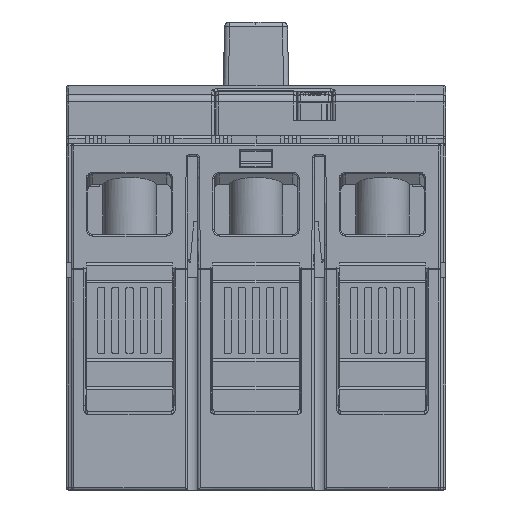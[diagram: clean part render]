
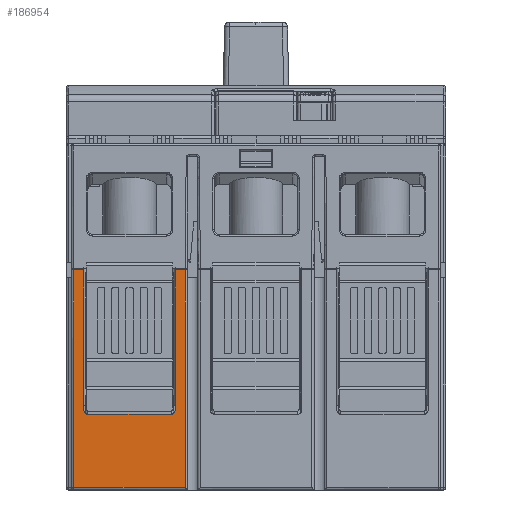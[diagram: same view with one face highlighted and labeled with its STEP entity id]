
A CAD part, front view. The second image highlights one B-rep face of the part: STEP entity #186954.
In plain terms, the highlighted planar face has unit normal (0, -1, 0).
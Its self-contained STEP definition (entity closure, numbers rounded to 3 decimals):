
#36447 = CARTESIAN_POINT ( 'NONE',  ( -33.3, -65., 15.7 ) ) ;
#36449 = DIRECTION ( 'NONE',  ( 0., -1., 0. ) ) ;
#36451 = DIRECTION ( 'NONE',  ( 0., 0., 1. ) ) ;
#36492 = LINE ( 'NONE', #36494, #139506 ) ;
#36494 = CARTESIAN_POINT ( 'NONE',  ( -37.5, -65., 15. ) ) ;
#36496 = DIRECTION ( 'NONE',  ( 1., 0., 0. ) ) ;
#36531 = CARTESIAN_POINT ( 'NONE',  ( -16.7, -65., 15.7 ) ) ;
#36533 = DIRECTION ( 'NONE',  ( 0., -1., 0. ) ) ;
#36534 = DIRECTION ( 'NONE',  ( 0., 0., -1. ) ) ;
#41897 = VECTOR ( 'NONE', #159462, 1000. ) ;
#41918 = VECTOR ( 'NONE', #159484, 1000. ) ;
#49181 = EDGE_CURVE ( 'NONE', #141727, #142605, #137434, .T. ) ;
#49185 = EDGE_CURVE ( 'NONE', #142602, #81810, #137460, .T. ) ;
#49189 = EDGE_CURVE ( 'NONE', #81810, #81813, #137541, .T. ) ;
#49193 = EDGE_CURVE ( 'NONE', #81813, #81788, #137560, .T. ) ;
#49197 = EDGE_CURVE ( 'NONE', #81788, #141723, #137625, .T. ) ;
#49763 = EDGE_CURVE ( 'NONE', #142605, #142623, #139503, .T. ) ;
#49777 = EDGE_CURVE ( 'NONE', #142623, #142614, #36492, .T. ) ;
#49785 = EDGE_CURVE ( 'NONE', #142614, #142602, #139518, .T. ) ;
#81330 = ORIENTED_EDGE ( 'NONE', *, *, #49197, .F. ) ;
#81334 = ORIENTED_EDGE ( 'NONE', *, *, #49193, .F. ) ;
#81337 = ORIENTED_EDGE ( 'NONE', *, *, #49189, .F. ) ;
#81340 = ORIENTED_EDGE ( 'NONE', *, *, #49185, .F. ) ;
#81342 = ORIENTED_EDGE ( 'NONE', *, *, #49785, .F. ) ;
#81345 = ORIENTED_EDGE ( 'NONE', *, *, #49777, .F. ) ;
#81348 = ORIENTED_EDGE ( 'NONE', *, *, #49763, .F. ) ;
#81350 = ORIENTED_EDGE ( 'NONE', *, *, #49181, .F. ) ;
#81354 = ORIENTED_EDGE ( 'NONE', *, *, #89056, .F. ) ;
#81358 = ORIENTED_EDGE ( 'NONE', *, *, #89051, .F. ) ;
#81788 = VERTEX_POINT ( 'NONE', #153417 ) ;
#81810 = VERTEX_POINT ( 'NONE', #153433 ) ;
#81813 = VERTEX_POINT ( 'NONE', #153435 ) ;
#89051 = EDGE_CURVE ( 'NONE', #141723, #141686, #159441, .T. ) ;
#89056 = EDGE_CURVE ( 'NONE', #141686, #141727, #159481, .T. ) ;
#94942 = CARTESIAN_POINT ( 'NONE',  ( -36., -65., 43.5 ) ) ;
#94956 = CARTESIAN_POINT ( 'NONE',  ( -36., -65., 0.5 ) ) ;
#94958 = CARTESIAN_POINT ( 'NONE',  ( -34., -65., 43.5 ) ) ;
#95397 = CARTESIAN_POINT ( 'NONE',  ( -16., -65., 15.7 ) ) ;
#95399 = CARTESIAN_POINT ( 'NONE',  ( -34., -65., 15.7 ) ) ;
#95403 = CARTESIAN_POINT ( 'NONE',  ( -16.7, -65., 15. ) ) ;
#95409 = CARTESIAN_POINT ( 'NONE',  ( -33.3, -65., 15. ) ) ;
#137434 = LINE ( 'NONE', #137437, #138492 ) ;
#137437 = CARTESIAN_POINT ( 'NONE',  ( -34., -65., 45. ) ) ;
#137440 = DIRECTION ( 'NONE',  ( 0., 0., -1. ) ) ;
#137460 = LINE ( 'NONE', #137465, #138501 ) ;
#137465 = CARTESIAN_POINT ( 'NONE',  ( -16., -65., 45. ) ) ;
#137470 = DIRECTION ( 'NONE',  ( 0., 0., 1. ) ) ;
#137541 = LINE ( 'NONE', #137543, #138520 ) ;
#137543 = CARTESIAN_POINT ( 'NONE',  ( -37.5, -65., 43.5 ) ) ;
#137544 = DIRECTION ( 'NONE',  ( 1., 0., 0. ) ) ;
#137560 = LINE ( 'NONE', #137567, #138517 ) ;
#137567 = CARTESIAN_POINT ( 'NONE',  ( -14., -65., 45. ) ) ;
#137576 = DIRECTION ( 'NONE',  ( 0., 0., -1. ) ) ;
#137625 = LINE ( 'NONE', #137643, #138540 ) ;
#137643 = CARTESIAN_POINT ( 'NONE',  ( -37.5, -65., 0.5 ) ) ;
#137647 = DIRECTION ( 'NONE',  ( -1., 0., 0. ) ) ;
#138492 = VECTOR ( 'NONE', #137440, 1000. ) ;
#138501 = VECTOR ( 'NONE', #137470, 1000. ) ;
#138517 = VECTOR ( 'NONE', #137576, 1000. ) ;
#138520 = VECTOR ( 'NONE', #137544, 1000. ) ;
#138540 = VECTOR ( 'NONE', #137647, 1000. ) ;
#139503 = CIRCLE ( 'NONE', #139507, 0.7 ) ;
#139506 = VECTOR ( 'NONE', #36496, 1000. ) ;
#139507 = AXIS2_PLACEMENT_3D ( 'NONE', #36447, #36449, #36451 ) ;
#139518 = CIRCLE ( 'NONE', #139520, 0.7 ) ;
#139520 = AXIS2_PLACEMENT_3D ( 'NONE', #36531, #36533, #36534 ) ;
#141686 = VERTEX_POINT ( 'NONE', #94942 ) ;
#141723 = VERTEX_POINT ( 'NONE', #94956 ) ;
#141727 = VERTEX_POINT ( 'NONE', #94958 ) ;
#142602 = VERTEX_POINT ( 'NONE', #95397 ) ;
#142605 = VERTEX_POINT ( 'NONE', #95399 ) ;
#142614 = VERTEX_POINT ( 'NONE', #95403 ) ;
#142623 = VERTEX_POINT ( 'NONE', #95409 ) ;
#153417 = CARTESIAN_POINT ( 'NONE',  ( -14., -65., 0.5 ) ) ;
#153433 = CARTESIAN_POINT ( 'NONE',  ( -16., -65., 43.5 ) ) ;
#153435 = CARTESIAN_POINT ( 'NONE',  ( -14., -65., 43.5 ) ) ;
#159441 = LINE ( 'NONE', #159461, #41897 ) ;
#159461 = CARTESIAN_POINT ( 'NONE',  ( -36., -65., 45. ) ) ;
#159462 = DIRECTION ( 'NONE',  ( 0., 0., 1. ) ) ;
#159481 = LINE ( 'NONE', #159482, #41918 ) ;
#159482 = CARTESIAN_POINT ( 'NONE',  ( -37.5, -65., 43.5 ) ) ;
#159484 = DIRECTION ( 'NONE',  ( 1., 0., 0. ) ) ;
#186954 = ADVANCED_FACE ( 'NONE', ( #225375 ), #225453, .F. ) ;
#200711 = EDGE_LOOP ( 'NONE', ( #81330, #81334, #81337, #81340, #81342, #81345, #81348, #81350, #81354, #81358 ) ) ;
#225375 = FACE_OUTER_BOUND ( 'NONE', #200711, .T. ) ;
#225453 = PLANE ( 'NONE',  #226518 ) ;
#225491 = CARTESIAN_POINT ( 'NONE',  ( -37.5, -65., 45. ) ) ;
#225494 = DIRECTION ( 'NONE',  ( 0., 1., 0. ) ) ;
#225497 = DIRECTION ( 'NONE',  ( -1., 0., 0. ) ) ;
#226518 = AXIS2_PLACEMENT_3D ( 'NONE', #225491, #225494, #225497 ) ;
